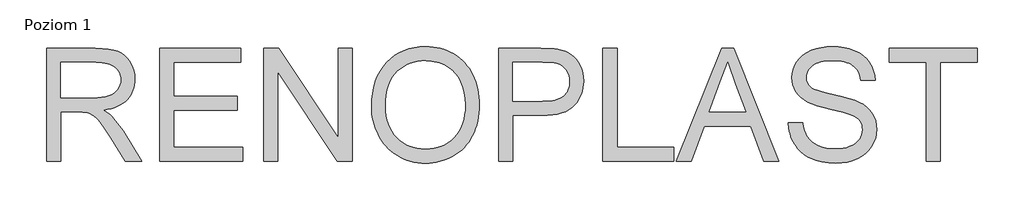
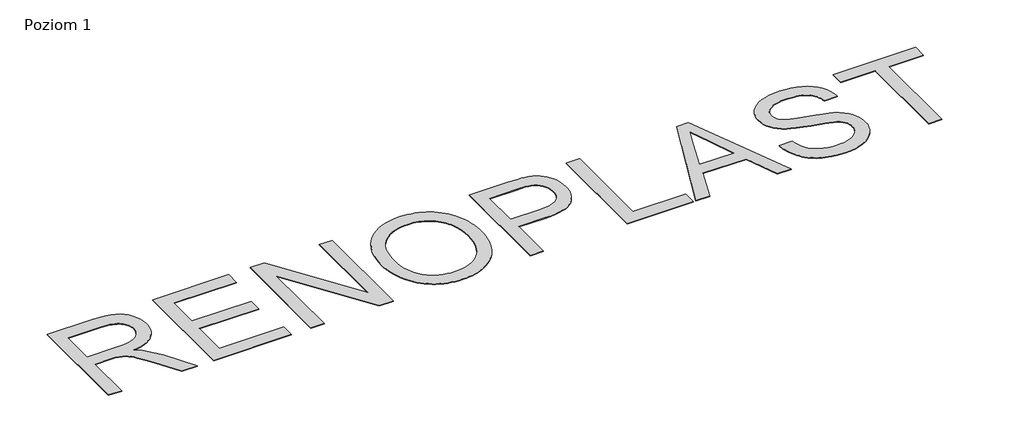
# One storey, part 4 of 4: 1 proxy.
"""IFC4 building model written with IfcOpenShell, lengths in millimetres."""

from ifc_helpers import new_model, si_unit, frame, origin, place, context, project, spatial, polyline, outline, extrude, element, save

model = new_model("IFC4")

# Units and contexts
model_context = context("Model", 3, world=origin())
ifc_project = project(units=[si_unit("LENGTHUNIT", "METRE", prefix="MILLI")], contexts=[model_context])

# Site, building, storey
site = spatial("IfcSite", under=ifc_project)
building = spatial("IfcBuilding", under=site)
storey = spatial("IfcBuildingStorey", under=building, Name="Poziom 1", Elevation=5.490868)

# Proxy
placement = place(None, origin())
element("IfcBuildingElementProxy", 1, Name="2000 mm Arial", ObjectType="2000 mm Arial", at=placement, inside=storey, context=model_context, shape_type="SweptSolid", body=[
    extrude(outline(polyline([(-111509.3065899, 68632.7906592), (-111509.3065899, 70590.4377181), (-110665.7404135, 70590.4377181), (-110544.6570036, 70587.1369368), (-110439.0170679, 70577.2345931), (-110348.8206065, 70560.7306868), (-110274.0676194, 70537.6252181), (-110210.4118289, 70506.1408431), (-110153.5069576, 70464.5002181), (-110103.3530054, 70412.7033431), (-110059.9499723, 70350.7502181), (-110024.9258455, 70281.9714956), (-109999.908612, 70209.6978284), (-109984.8982719, 70133.9292162), (-109979.8948252, 70054.6656592), (-109981.9671483, 70003.3616611), (-109988.1841175, 69954.1187842), (-109998.5457329, 69906.9370287), (-110013.0519944, 69861.8163945), (-110031.702902, 69818.7568817), (-110054.4984558, 69777.7584901), (-110081.4386557, 69738.8212199), (-110112.5235017, 69701.945071), (-110147.9396897, 69667.7349377), (-110187.8739153, 69636.7957144), (-110232.3261786, 69609.127401), (-110281.2964797, 69584.7299975), (-110334.7848183, 69563.6035039), (-110392.7911947, 69545.7479203), (-110455.3156088, 69531.1632466), (-110522.3580605, 69519.8494828), (-110441.705487, 69467.1564681), (-110409.7132995, 69441.0788026), (-110383.2771782, 69415.1803651), (-110283.0290164, 69296.2924975), (-110184.9315899, 69163.3053651), (-109858.4977664, 68632.7906592), (-110142.8727664, 68632.7906592), (-110397.6154135, 69038.5627181), (-110499.5363694, 69193.4156592), (-110581.6227664, 69307.1656592), (-110616.7663786, 69350.0459442), (-110650.0280973, 69385.4882695), (-110681.4079227, 69413.4926353), (-110710.9058547, 69434.0590416), (-110768.5575091, 69462.5562842), (-110827.2845311, 69480.6583063), (-110884.517987, 69487.1105122), (-110969.2330605, 69489.2612475), (-111264.6007076, 69489.2612475), (-111264.6007076, 68632.7906592), (-111509.3065899, 68632.7906592)]), holes=[polyline([(-111264.6007076, 69733.9671298), (-110716.8801194, 69733.9671298), (-110633.8229043, 69736.1328008), (-110559.5777297, 69742.6298136), (-110494.1445955, 69753.4581684), (-110437.5235017, 69768.6178651), (-110388.4449172, 69788.5420379), (-110345.6393105, 69813.663821), (-110309.1066819, 69843.9832144), (-110278.8470311, 69879.5002181), (-110255.1142646, 69918.4673596), (-110238.1622885, 69959.1371666), (-110227.9911028, 70001.509639), (-110224.6007076, 70045.5847769), (-110226.217493, 70077.5993679), (-110231.0678491, 70108.1651997), (-110239.1517761, 70137.2822723), (-110250.4692738, 70164.9505857), (-110265.0203422, 70191.1701399), (-110282.8049815, 70215.940935), (-110303.8231915, 70239.2629708), (-110328.0749723, 70261.1362475), (-110355.8216979, 70280.9633385), (-110387.3247425, 70298.1468173), (-110422.584106, 70312.6866841), (-110461.5997885, 70324.5829386), (-110504.3717899, 70333.8355811), (-110550.9001102, 70340.4446114), (-110655.2257076, 70345.7318357), (-111264.6007076, 70345.7318357), (-111264.6007076, 69733.9671298)])]), frame((0.0, 0.0, 5.490868), z_axis=(0.0, 0.0, 1.0), x_axis=(1.0, 0.0, 0.0)), (0.0, 0.0, 1.0), 10.0),
    extrude(outline(polyline([(-109551.6595311, 68632.7906592), (-109551.6595311, 70590.4377181), (-108144.6007076, 70590.4377181), (-108144.6007076, 70345.7318357), (-109306.9536488, 70345.7318357), (-109306.9536488, 69764.5553651), (-108205.7771782, 69764.5553651), (-108205.7771782, 69519.8494828), (-109306.9536488, 69519.8494828), (-109306.9536488, 68877.4965416), (-108114.0124723, 68877.4965416), (-108114.0124723, 68632.7906592), (-109551.6595311, 68632.7906592)])), frame((0.0, 0.0, 5.490868), z_axis=(0.0, 0.0, 1.0), x_axis=(1.0, 0.0, 0.0)), (0.0, 0.0, 1.0), 10.0),
    extrude(outline(polyline([(-107746.9536488, 68632.7906592), (-107746.9536488, 70590.4377181), (-107485.0418841, 70590.4377181), (-106462.2477664, 69039.5186004), (-106462.2477664, 70590.4377181), (-106217.5418841, 70590.4377181), (-106217.5418841, 68632.7906592), (-106479.4536488, 68632.7906592), (-107502.2477664, 70184.1877181), (-107502.2477664, 68632.7906592), (-107746.9536488, 68632.7906592)])), frame((0.0, 0.0, 5.490868), z_axis=(0.0, 0.0, 1.0), x_axis=(1.0, 0.0, 0.0)), (0.0, 0.0, 1.0), 10.0),
    extrude(outline(polyline([(-105881.0712958, 69585.8053651), (-105876.9938602, 69703.9091105), (-105864.7615532, 69815.4262291), (-105844.3743749, 69920.3567208), (-105815.8323252, 70018.7005857), (-105779.1354043, 70110.4578238), (-105734.283612, 70195.628435), (-105681.2769484, 70274.2124193), (-105620.1154135, 70346.2097769), (-105552.5091405, 70410.6198182), (-105480.1682627, 70466.4418541), (-105403.0927802, 70513.6758844), (-105321.2826929, 70552.3219092), (-105234.7380008, 70582.3799285), (-105143.4587039, 70603.8499423), (-105047.4448023, 70616.7319506), (-104946.6962958, 70621.0259534), (-104880.0160339, 70619.009639), (-104814.9936304, 70612.960696), (-104751.6290854, 70602.8791243), (-104689.9223988, 70588.7649239), (-104629.8735706, 70570.6180949), (-104571.482601, 70548.4386372), (-104514.7494898, 70522.2265508), (-104459.674237, 70491.9818357), (-104407.0409649, 70458.1301583), (-104357.6337958, 70421.097185), (-104311.4527297, 70380.8829157), (-104268.4977664, 70337.4873504), (-104228.7689061, 70290.9104892), (-104192.2661488, 70241.152332), (-104158.9894944, 70188.2128789), (-104128.9389429, 70132.0921298), (-104102.2787866, 70073.4099148), (-104079.1733179, 70012.7860636), (-104059.6225366, 69950.2205765), (-104043.6264429, 69885.7134534), (-104031.1850366, 69819.2646942), (-104022.2983179, 69750.8742989), (-104016.9662866, 69680.5422677), (-104015.1889429, 69608.2686004), (-104017.0596345, 69535.0465186), (-104022.6717094, 69463.7810085), (-104032.0251676, 69394.4720701), (-104045.1200091, 69327.1197034), (-104061.9562338, 69261.7239083), (-104082.5338418, 69198.284685), (-104106.8528331, 69136.8020333), (-104134.9132076, 69077.2759534), (-104166.4050504, 69020.505503), (-104201.0184466, 68967.2897401), (-104238.753396, 68917.6286648), (-104279.6098988, 68871.5222769), (-104323.5879548, 68828.9705765), (-104370.6875642, 68789.9735636), (-104420.9087269, 68754.5312383), (-104474.2514429, 68722.6436004), (-104529.6963533, 68694.4151997), (-104586.2240991, 68669.9505857), (-104643.8346805, 68649.2497585), (-104702.5280973, 68632.3127181), (-104762.3043496, 68619.1394644), (-104823.1634374, 68609.7299975), (-104885.1053606, 68604.0843173), (-104948.1301194, 68602.2024239), (-105016.0425734, 68604.2822148), (-105082.1328767, 68610.5215875), (-105146.4010293, 68620.9205421), (-105208.8470311, 68635.4790784), (-105269.4708822, 68654.1971965), (-105328.2725826, 68677.0748964), (-105385.2521322, 68704.1121781), (-105440.4095311, 68735.3090416), (-105493.0129319, 68770.1016657), (-105542.330487, 68807.9262291), (-105588.3621966, 68848.7827318), (-105631.1080605, 68892.6711739), (-105670.5680789, 68939.5915554), (-105706.7422517, 68989.5438761), (-105739.6305789, 69042.5281363), (-105769.2330605, 69098.5443357), (-105795.4451469, 69156.4984373), (-105818.1622885, 69215.2964037), (-105837.3844852, 69274.9382351), (-105853.111737, 69335.4239313), (-105865.344044, 69396.7534924), (-105874.0814061, 69458.9269184), (-105879.3238234, 69521.9442093), (-105881.0712958, 69585.8053651)]), holes=[polyline([(-105636.3654135, 69583.4156592), (-105633.3073367, 69500.0223918), (-105624.1331065, 69421.1845011), (-105608.8427228, 69346.9019874), (-105587.4361855, 69277.1748504), (-105559.9134948, 69212.0030903), (-105526.2746506, 69151.386707), (-105486.5196529, 69095.3257006), (-105440.6485017, 69043.820071), (-105390.162231, 68997.6688761), (-105336.5618749, 68957.6711739), (-105279.8474332, 68923.8269644), (-105220.0189061, 68896.1362475), (-105157.0762935, 68874.5990232), (-105091.0195955, 68859.2152916), (-105021.8488119, 68849.9850526), (-104949.5639429, 68846.9083063), (-104875.9572678, 68850.0149239), (-104805.6887131, 68859.3347769), (-104738.7582788, 68874.8678651), (-104675.1659649, 68896.6141886), (-104614.9117715, 68924.5737475), (-104557.9956984, 68958.7465416), (-104504.4177457, 68999.132571), (-104454.1779135, 69045.7318357), (-104408.6428147, 69098.043991), (-104369.1790624, 69155.5686923), (-104335.7866566, 69218.3059396), (-104308.4655973, 69286.2557328), (-104287.2158845, 69359.4180719), (-104272.0375183, 69437.792957), (-104262.9304985, 69521.3803881), (-104259.8948252, 69610.1803651), (-104265.0924355, 69722.167957), (-104280.6852664, 69826.8072034), (-104306.6733179, 69924.0981041), (-104343.0565899, 70014.0406592), (-104365.045618, 70055.9613279), (-104389.4318197, 70095.4549515), (-104416.2151952, 70132.5215301), (-104445.3957444, 70167.1610636), (-104476.9734672, 70199.3735522), (-104510.9483638, 70229.1589956), (-104547.3204342, 70256.5173941), (-104586.0896782, 70281.4487475), (-104626.6736051, 70303.6842139), (-104668.4897241, 70322.9549515), (-104711.5380353, 70339.2609602), (-104755.8185385, 70352.6022401), (-104848.0761212, 70370.3906133), (-104945.2624723, 70376.320071), (-105014.7655743, 70373.4636257), (-105081.8042922, 70364.8942898), (-105146.3786258, 70350.6120632), (-105208.4885752, 70330.616946), (-105268.1341405, 70304.9089382), (-105325.3153216, 70273.4880398), (-105380.0321184, 70236.3542507), (-105432.2845311, 70193.507571), (-105480.1159879, 70143.9846505), (-105521.5699172, 70086.822139), (-105556.6463188, 70022.0200365), (-105585.3451929, 69949.5783431), (-105607.6665394, 69869.4970586), (-105623.6103583, 69781.7761831), (-105633.1766497, 69686.4157167), (-105636.3654135, 69583.4156592)])]), frame((0.0, 0.0, 5.490868), z_axis=(0.0, 0.0, 1.0), x_axis=(1.0, 0.0, 0.0)), (0.0, 0.0, 1.0), 10.0),
    extrude(outline(polyline([(-103678.7183547, 68632.7906592), (-103678.7183547, 70590.4377181), (-102953.2036488, 70590.4377181), (-102784.2514429, 70585.7777916), (-102716.8019944, 70579.9528835), (-102660.7036488, 70571.7980122), (-102592.6119668, 70557.1162567), (-102530.2854502, 70536.9680489), (-102473.7240991, 70511.353389), (-102422.9279135, 70480.2722769), (-102377.3592094, 70443.0824791), (-102336.4803032, 70399.1417622), (-102300.2911947, 70348.4501261), (-102268.7918841, 70291.007571), (-102243.2817738, 70228.7109258), (-102225.0602664, 70163.4570195), (-102214.127362, 70095.2458523), (-102210.4830605, 70024.0774239), (-102212.9437108, 69962.7889359), (-102220.3256616, 69903.9050894), (-102232.628913, 69847.4258844), (-102249.8534649, 69793.351321), (-102271.9993174, 69741.6813991), (-102299.0664705, 69692.4161188), (-102331.054924, 69645.55548), (-102367.9646782, 69601.0994828), (-102411.2967669, 69560.5491611), (-102462.5522241, 69525.4055489), (-102521.73105, 69495.6686464), (-102588.8332444, 69471.3384534), (-102663.8588073, 69452.4149699), (-102746.8077388, 69438.898196), (-102837.6800389, 69430.7881317), (-102936.4757076, 69428.0847769), (-103434.0124723, 69428.0847769), (-103434.0124723, 68632.7906592), (-103678.7183547, 68632.7906592)]), holes=[polyline([(-103434.0124723, 69672.7906592), (-102922.1374723, 69672.7906592), (-102804.4444576, 69678.4064681), (-102752.498226, 69685.4262291), (-102705.1521782, 69695.2538945), (-102662.4063142, 69707.8894644), (-102624.2606341, 69723.3329386), (-102590.7151377, 69741.5843173), (-102561.7698252, 69762.6436004), (-102536.7899309, 69786.2494138), (-102515.1406892, 69812.1403835), (-102496.8221001, 69840.3165094), (-102481.8341635, 69870.7777916), (-102470.1768795, 69903.52423), (-102461.850248, 69938.5558247), (-102456.8542692, 69975.8725756), (-102455.1889429, 70015.4744828), (-102459.1170219, 70072.5884534), (-102470.9012591, 70125.4009534), (-102490.5416543, 70173.9119828), (-102518.0382076, 70218.1215416), (-102551.9272241, 70256.5958063), (-102590.7450091, 70287.9009534), (-102634.4915624, 70312.0369828), (-102683.1668841, 70329.0038945), (-102723.3736855, 70336.3223688), (-102777.5602664, 70341.5498504), (-102927.8727664, 70345.7318357), (-103434.0124723, 70345.7318357), (-103434.0124723, 69672.7906592)])]), frame((0.0, 0.0, 5.490868), z_axis=(0.0, 0.0, 1.0), x_axis=(1.0, 0.0, 0.0)), (0.0, 0.0, 1.0), 10.0),
    extrude(outline(polyline([(-101874.0124723, 68632.7906592), (-101874.0124723, 70590.4377181), (-101629.3065899, 70590.4377181), (-101629.3065899, 68877.4965416), (-100650.4830605, 68877.4965416), (-100650.4830605, 68632.7906592), (-101874.0124723, 68632.7906592)])), frame((0.0, 0.0, 5.490868), z_axis=(0.0, 0.0, 1.0), x_axis=(1.0, 0.0, 0.0)), (0.0, 0.0, 1.0), 10.0),
    extrude(outline(polyline([(-100602.6889429, 68632.7906592), (-99821.2551194, 70590.4377181), (-99612.8727664, 70590.4377181), (-98831.9168841, 68632.7906592), (-99090.4830605, 68632.7906592), (-99314.1595311, 69244.5553651), (-100120.924237, 69244.5553651), (-100344.6007076, 68632.7906592), (-100602.6889429, 68632.7906592)]), holes=[polyline([(-100031.0712958, 69489.2612475), (-99403.5345311, 69489.2612475), (-99580.3727664, 69970.5480122), (-99717.5418841, 70345.7318357), (-99839.4168841, 70012.6068357), (-100031.0712958, 69489.2612475)])]), frame((0.0, 0.0, 5.490868), z_axis=(0.0, 0.0, 1.0), x_axis=(1.0, 0.0, 0.0)), (0.0, 0.0, 1.0), 10.0),
    extrude(outline(polyline([(-98662.2477664, 69305.7318357), (-98417.5418841, 69305.7318357), (-98406.3401377, 69234.5036648), (-98389.4628399, 69169.9367989), (-98366.9099907, 69112.0312383), (-98338.6815899, 69060.7869828), (-98303.3438142, 69015.1734717), (-98259.4628399, 68974.1601445), (-98207.0386672, 68937.7470011), (-98146.0712958, 68905.9340416), (-98078.8010752, 68880.1102824), (-98007.4683547, 68861.6647401), (-97932.0731341, 68850.5974148), (-97852.6154135, 68846.9083063), (-97782.3281892, 68849.701275), (-97716.2826929, 68858.0801813), (-97654.4789245, 68872.045025), (-97596.9168841, 68891.5958063), (-97545.0154594, 68916.0305489), (-97500.1935385, 68944.6472769), (-97462.4511212, 68977.4459901), (-97431.7882076, 69014.4266886), (-97408.0554411, 69053.9912567), (-97391.1034649, 69094.5415784), (-97380.9322793, 69136.0776537), (-97377.5418841, 69178.5994828), (-97380.0809466, 69220.9420839), (-97387.6981341, 69260.5066519), (-97400.3934466, 69297.2931868), (-97418.1668841, 69331.3016886), (-97443.7964797, 69362.7113853), (-97480.0602664, 69391.7015048), (-97526.9582444, 69418.2720471), (-97584.4904135, 69442.4230122), (-97713.7137591, 69480.8375342), (-97940.7955605, 69535.8605122), (-98068.2714337, 69567.1507236), (-98174.6880238, 69597.6941519), (-98260.0453308, 69627.4907971), (-98324.3433547, 69656.5406592), (-98389.6868749, 69695.5227364), (-98446.158612, 69738.8660269), (-98493.7585661, 69786.5705306), (-98532.486737, 69838.6362475), (-98562.4924815, 69894.5254938), (-98583.9251561, 69953.7005857), (-98596.7847609, 70016.1615232), (-98601.0712958, 70081.9083063), (-98595.7691359, 70154.7794), (-98579.8626561, 70225.2309166), (-98553.3518565, 70293.2628559), (-98516.236737, 70358.8752181), (-98468.9354962, 70419.3945195), (-98411.8663326, 70472.1472769), (-98345.0292462, 70517.1334901), (-98268.424237, 70554.3531592), (-98184.6351745, 70583.5225067), (-98096.2459282, 70604.3577548), (-98003.256498, 70616.8589037), (-97905.6668841, 70621.0259534), (-97799.205487, 70616.6647401), (-97699.1962958, 70603.5811004), (-97605.6393105, 70581.7750342), (-97518.5345311, 70551.2465416), (-97439.4950091, 70512.2644644), (-97370.1337958, 70465.0976445), (-97310.4508914, 70409.746082), (-97260.4462958, 70346.2097769), (-97220.5083363, 70276.3407511), (-97191.0253399, 70201.9910269), (-97171.9973069, 70123.1606041), (-97163.424237, 70039.8494828), (-97408.1301194, 70039.8494828), (-97414.7914245, 70080.1608339), (-97424.4996047, 70117.9331225), (-97437.2546598, 70153.1663486), (-97453.0565899, 70185.8605122), (-97471.9053951, 70216.0156133), (-97493.8010752, 70243.6316519), (-97518.7436304, 70268.708628), (-97546.7330605, 70291.2465416), (-97578.0158041, 70311.18565), (-97612.8382995, 70328.4662107), (-97651.2005467, 70343.0882236), (-97693.1025458, 70355.0516886), (-97738.5442967, 70364.3566059), (-97787.5257995, 70371.0029754), (-97896.1080605, 70376.320071), (-98008.1553951, 70371.0627181), (-98058.0629089, 70364.4910269), (-98103.892987, 70355.2906592), (-98145.6456295, 70343.4616151), (-98183.3208363, 70329.0038945), (-98216.9186074, 70311.9174975), (-98246.4389429, 70292.2024239), (-98294.5317738, 70247.9629938), (-98313.4253859, 70224.2078238), (-98328.8837958, 70199.3623504), (-98340.9070036, 70173.4265738), (-98349.4950091, 70146.4004938), (-98354.6478124, 70118.2841105), (-98356.3654135, 70089.0774239), (-98351.4963877, 70039.7598688), (-98336.8893105, 69995.0424975), (-98312.5441819, 69954.92531), (-98278.4610017, 69919.4083063), (-98255.4899539, 69902.6355581), (-98224.8121047, 69885.773196), (-98140.3360017, 69851.7796298), (-98025.0326929, 69817.4276078), (-97878.9021782, 69782.7171298), (-97730.6806708, 69748.8729203), (-97609.1043841, 69717.1197034), (-97514.1733179, 69687.4574791), (-97445.8874723, 69659.8862475), (-97370.8656433, 69618.0962659), (-97306.3883914, 69571.1086739), (-97252.4557168, 69518.9234717), (-97209.0676194, 69461.5406592), (-97175.7162866, 69399.2589497), (-97151.8939061, 69332.3770563), (-97137.6004778, 69260.8949791), (-97132.8360017, 69184.8127181), (-97138.3173896, 69108.2674515), (-97154.7615532, 69033.9625342), (-97182.1684925, 68961.8979662), (-97220.5382076, 68892.0737475), (-97269.1985936, 68827.1932328), (-97327.4775458, 68769.9597769), (-97395.3750642, 68720.3733798), (-97472.8911488, 68678.4340416), (-97557.7705146, 68645.0827089), (-97647.7578767, 68621.2603284), (-97742.8532352, 68606.9669), (-97843.0565899, 68602.2024239), (-97968.2323712, 68607.3402916), (-98082.8038326, 68622.7538945), (-98186.7709741, 68648.4432328), (-98234.777925, 68665.1413026), (-98280.1337958, 68684.4083063), (-98322.9804755, 68706.2591795), (-98363.4598528, 68730.7088578), (-98401.5719277, 68757.7573412), (-98437.3167002, 68787.4046298), (-98470.6941704, 68819.6507236), (-98501.7043381, 68854.4956225), (-98530.3472035, 68891.9393265), (-98556.6227664, 68931.9818357), (-98580.2285798, 68973.9958523), (-98600.8621966, 69017.3540784), (-98618.5236166, 69062.056514), (-98633.2128399, 69108.1031592), (-98644.9298666, 69155.494014), (-98653.6746966, 69204.2290784), (-98662.2477664, 69305.7318357)])), frame((0.0, 0.0, 5.490868), z_axis=(0.0, 0.0, 1.0), x_axis=(1.0, 0.0, 0.0)), (0.0, 0.0, 1.0), 10.0),
    extrude(outline(polyline([(-96276.3654135, 68632.7906592), (-96276.3654135, 70345.7318357), (-96918.7183547, 70345.7318357), (-96918.7183547, 70590.4377181), (-95389.3065899, 70590.4377181), (-95389.3065899, 70345.7318357), (-96031.6595311, 70345.7318357), (-96031.6595311, 68632.7906592), (-96276.3654135, 68632.7906592)])), frame((0.0, 0.0, 5.490868), z_axis=(0.0, 0.0, 1.0), x_axis=(1.0, 0.0, 0.0)), (0.0, 0.0, 1.0), 10.0),
])

save(model, "model.ifc")
